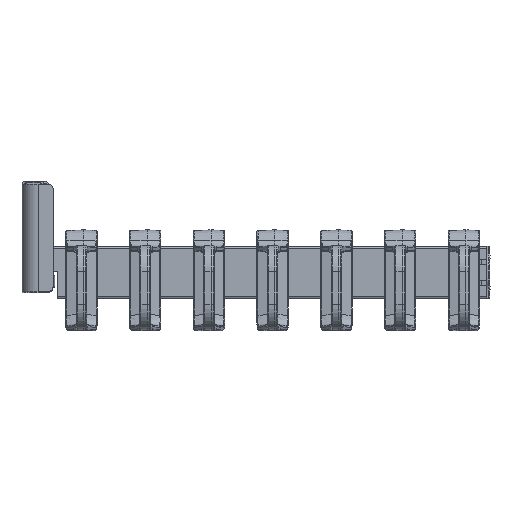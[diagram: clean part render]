
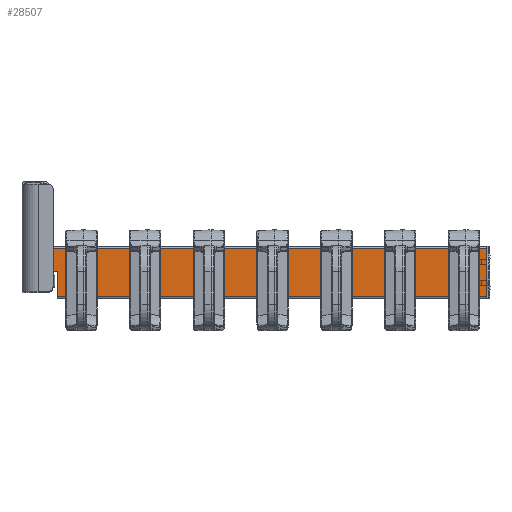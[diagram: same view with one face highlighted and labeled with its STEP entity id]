
A CAD part, top view. The second image highlights one B-rep face of the part: STEP entity #28507.
In plain terms, the highlighted planar face has unit normal (0, 0, 1).
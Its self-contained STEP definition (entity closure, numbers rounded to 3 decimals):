
#20557=DIRECTION('',(0.,-1.,0.));
#20558=VECTOR('',#20557,4.973);
#20559=CARTESIAN_POINT('',(444.9,42.,-142.5));
#20560=LINE('',#20559,#20558);
#20561=DIRECTION('',(0.,-1.,0.));
#20562=VECTOR('',#20561,36.055);
#20563=CARTESIAN_POINT('',(444.9,37.027,-142.5));
#20564=LINE('',#20563,#20562);
#20565=DIRECTION('',(0.,-1.,0.));
#20566=VECTOR('',#20565,4.973);
#20567=CARTESIAN_POINT('',(444.9,0.973,-142.5));
#20568=LINE('',#20567,#20566);
#20569=DIRECTION('',(-1.,0.,0.));
#20570=VECTOR('',#20569,411.);
#20571=CARTESIAN_POINT('',(444.9,-4.,-142.5));
#20572=LINE('',#20571,#20570);
#20573=DIRECTION('',(0.,1.,0.));
#20574=VECTOR('',#20573,23.);
#20575=CARTESIAN_POINT('',(33.9,-4.,-142.5));
#20576=LINE('',#20575,#20574);
#20577=DIRECTION('',(1.,0.,0.));
#20578=VECTOR('',#20577,5.712);
#20579=CARTESIAN_POINT('',(27.188,20.,-142.5));
#20580=LINE('',#20579,#20578);
#20581=DIRECTION('',(1.,0.,0.));
#20582=VECTOR('',#20581,16.288);
#20583=CARTESIAN_POINT('',(10.9,20.,-142.5));
#20584=LINE('',#20583,#20582);
#20585=CARTESIAN_POINT('',(10.9,21.,-142.5));
#20586=DIRECTION('',(0.,0.,1.));
#20587=DIRECTION('',(-1.,0.,0.));
#20588=AXIS2_PLACEMENT_3D('',#20585,#20586,#20587);
#20590=CARTESIAN_POINT('',(9.3,26.497,-142.5));
#20591=DIRECTION('',(0.,0.,-1.));
#20592=DIRECTION('',(1.,0.,0.));
#20593=AXIS2_PLACEMENT_3D('',#20590,#20591,#20592);
#20595=DIRECTION('',(0.,-1.,0.));
#20596=VECTOR('',#20595,1.007);
#20597=CARTESIAN_POINT('',(10.8,27.503,-142.5));
#20598=LINE('',#20597,#20596);
#20599=CARTESIAN_POINT('',(9.3,27.503,-142.5));
#20600=DIRECTION('',(0.,0.,1.));
#20601=DIRECTION('',(1.,0.,0.));
#20602=AXIS2_PLACEMENT_3D('',#20599,#20600,#20601);
#20604=CARTESIAN_POINT('',(10.8,39.106,-142.5));
#20605=CARTESIAN_POINT('',(10.8,38.699,-142.5));
#20606=CARTESIAN_POINT('',(10.686,38.151,-142.5));
#20607=CARTESIAN_POINT('',(10.335,37.531,-142.5));
#20608=CARTESIAN_POINT('',(10.073,37.269,-142.5));
#20609=CARTESIAN_POINT('',(9.9,37.162,-142.5));
#20611=DIRECTION('',(0.,-1.,0.));
#20612=VECTOR('',#20611,1.424);
#20613=CARTESIAN_POINT('',(10.8,40.53,-142.5));
#20614=LINE('',#20613,#20612);
#20615=CARTESIAN_POINT('',(10.8,40.53,-142.5));
#20616=CARTESIAN_POINT('',(10.8,40.796,-142.5));
#20617=CARTESIAN_POINT('',(10.731,41.308,-142.5));
#20618=CARTESIAN_POINT('',(10.531,41.78,-142.5));
#20619=CARTESIAN_POINT('',(10.381,42.,-142.5));
#20621=DIRECTION('',(-1.,0.,0.));
#20622=VECTOR('',#20621,434.519);
#20623=CARTESIAN_POINT('',(444.9,42.,-142.5));
#20624=LINE('',#20623,#20622);
#21197=DIRECTION('',(0.,-1.,0.));
#21198=VECTOR('',#21197,8.284);
#21199=CARTESIAN_POINT('',(9.9,37.162,-142.5));
#21200=LINE('',#21199,#21198);
#22152=CARTESIAN_POINT('',(32.9,19.,-142.5));
#22153=DIRECTION('',(0.,0.,-1.));
#22154=DIRECTION('',(0.,1.,0.));
#22155=AXIS2_PLACEMENT_3D('',#22152,#22153,#22154);
#22619=DIRECTION('',(0.,-1.,0.));
#22620=VECTOR('',#22619,4.122);
#22621=CARTESIAN_POINT('',(9.9,25.122,-142.5));
#22622=LINE('',#22621,#22620);
#25592=CARTESIAN_POINT('',(33.9,-4.,-142.5));
#25594=VERTEX_POINT('',#25592);
#25615=CARTESIAN_POINT('',(32.9,20.,-142.5));
#25617=VERTEX_POINT('',#25615);
#25619=CARTESIAN_POINT('',(33.9,19.,-142.5));
#25621=VERTEX_POINT('',#25619);
#25624=CARTESIAN_POINT('',(9.9,21.,-142.5));
#25626=VERTEX_POINT('',#25624);
#25819=CARTESIAN_POINT('',(9.9,37.162,-142.5));
#25821=VERTEX_POINT('',#25819);
#25852=CARTESIAN_POINT('',(9.9,28.878,-142.5));
#25854=VERTEX_POINT('',#25852);
#25855=CARTESIAN_POINT('',(9.9,25.122,-142.5));
#25857=VERTEX_POINT('',#25855);
#25863=CARTESIAN_POINT('',(10.9,20.,-142.5));
#25864=CARTESIAN_POINT('',(27.188,20.,-142.5));
#25865=VERTEX_POINT('',#25863);
#25866=VERTEX_POINT('',#25864);
#25867=CARTESIAN_POINT('',(10.8,40.53,-142.5));
#25868=CARTESIAN_POINT('',(10.8,39.106,-142.5));
#25869=VERTEX_POINT('',#25867);
#25870=VERTEX_POINT('',#25868);
#25871=CARTESIAN_POINT('',(10.8,27.503,-142.5));
#25872=CARTESIAN_POINT('',(10.8,26.497,-142.5));
#25873=VERTEX_POINT('',#25871);
#25874=VERTEX_POINT('',#25872);
#25875=VERTEX_POINT('',#20619);
#27016=CARTESIAN_POINT('',(444.9,42.,-142.5));
#27017=CARTESIAN_POINT('',(444.9,37.027,-142.5));
#27018=VERTEX_POINT('',#27016);
#27019=VERTEX_POINT('',#27017);
#27028=CARTESIAN_POINT('',(444.9,0.973,-142.5));
#27029=CARTESIAN_POINT('',(444.9,-4.,-142.5));
#27030=VERTEX_POINT('',#27028);
#27031=VERTEX_POINT('',#27029);
#28466=CARTESIAN_POINT('',(9.9,44.,-142.5));
#28467=DIRECTION('',(0.,0.,1.));
#28468=DIRECTION('',(0.,-1.,0.));
#28469=AXIS2_PLACEMENT_3D('',#28466,#28467,#28468);
#28470=PLANE('',#28469);
#28472=ORIENTED_EDGE('',*,*,#28471,.T.);
#28474=ORIENTED_EDGE('',*,*,#28473,.T.);
#28475=ORIENTED_EDGE('',*,*,#28454,.T.);
#28477=ORIENTED_EDGE('',*,*,#28476,.T.);
#28479=ORIENTED_EDGE('',*,*,#28478,.T.);
#28481=ORIENTED_EDGE('',*,*,#28480,.F.);
#28483=ORIENTED_EDGE('',*,*,#28482,.F.);
#28485=ORIENTED_EDGE('',*,*,#28484,.F.);
#28487=ORIENTED_EDGE('',*,*,#28486,.F.);
#28489=ORIENTED_EDGE('',*,*,#28488,.F.);
#28491=ORIENTED_EDGE('',*,*,#28490,.F.);
#28493=ORIENTED_EDGE('',*,*,#28492,.F.);
#28495=ORIENTED_EDGE('',*,*,#28494,.T.);
#28497=ORIENTED_EDGE('',*,*,#28496,.F.);
#28499=ORIENTED_EDGE('',*,*,#28498,.F.);
#28501=ORIENTED_EDGE('',*,*,#28500,.F.);
#28503=ORIENTED_EDGE('',*,*,#28502,.T.);
#28504=ORIENTED_EDGE('',*,*,#28011,.F.);
#28505=EDGE_LOOP('',(#28472,#28474,#28475,#28477,#28479,#28481,#28483,#28485,
#28487,#28489,#28491,#28493,#28495,#28497,#28499,#28501,#28503,#28504));
#28506=FACE_OUTER_BOUND('',#28505,.F.);
#20589=CIRCLE('',#20588,1.);
#20594=CIRCLE('',#20593,1.5);
#20603=CIRCLE('',#20602,1.5);
#20610=B_SPLINE_CURVE_WITH_KNOTS('',3,(#20604,#20605,#20606,#20607,#20608,
#20609),.UNSPECIFIED.,.F.,.F.,(4,1,1,4),(0.,0.5,0.75,1.),.UNSPECIFIED.);
#20620=B_SPLINE_CURVE_WITH_KNOTS('',3,(#20615,#20616,#20617,#20618,#20619),
.UNSPECIFIED.,.F.,.F.,(4,1,4),(0.,0.5,1.),.UNSPECIFIED.);
#22156=CIRCLE('',#22155,1.);
#28011=EDGE_CURVE('',#27018,#25875,#20624,.T.);
#28454=EDGE_CURVE('',#27030,#27031,#20568,.T.);
#28471=EDGE_CURVE('',#27018,#27019,#20560,.T.);
#28473=EDGE_CURVE('',#27019,#27030,#20564,.T.);
#28476=EDGE_CURVE('',#27031,#25594,#20572,.T.);
#28478=EDGE_CURVE('',#25594,#25621,#20576,.T.);
#28480=EDGE_CURVE('',#25617,#25621,#22156,.T.);
#28482=EDGE_CURVE('',#25866,#25617,#20580,.T.);
#28484=EDGE_CURVE('',#25865,#25866,#20584,.T.);
#28486=EDGE_CURVE('',#25626,#25865,#20589,.T.);
#28488=EDGE_CURVE('',#25857,#25626,#22622,.T.);
#28490=EDGE_CURVE('',#25874,#25857,#20594,.T.);
#28492=EDGE_CURVE('',#25873,#25874,#20598,.T.);
#28494=EDGE_CURVE('',#25873,#25854,#20603,.T.);
#28496=EDGE_CURVE('',#25821,#25854,#21200,.T.);
#28498=EDGE_CURVE('',#25870,#25821,#20610,.T.);
#28500=EDGE_CURVE('',#25869,#25870,#20614,.T.);
#28502=EDGE_CURVE('',#25869,#25875,#20620,.T.);
#28507=ADVANCED_FACE('',(#28506),#28470,.T.);
